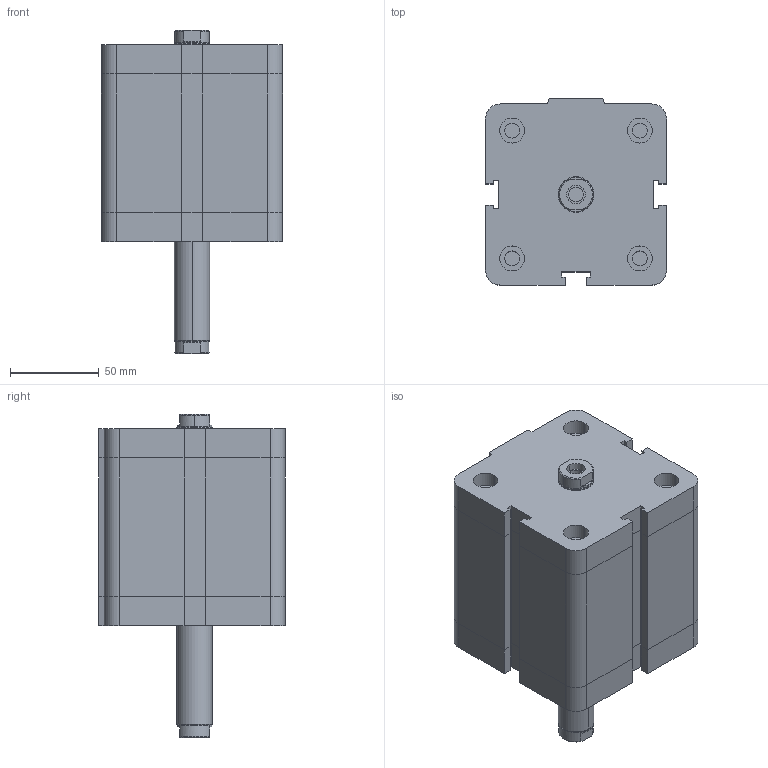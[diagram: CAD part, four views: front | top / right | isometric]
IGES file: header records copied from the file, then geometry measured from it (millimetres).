
Global section: file name: No Iges File Name specified; native system: Autodesk Inventor 2009; preprocessor: AutoDesk Inventor Iges Exporter R2009; author: maffial1; date: 20090420.200435; units: millimetre
Bounding box: 102 x 105 x 182 mm (x, y, z)
Volume: 1126073 mm3; surface area: 98022.8 mm2
Topology: 2 solids, 2 shells, 202 faces, 450 edges, 274 vertices
Faces by surface type: plane 114, bspline 42, revolution 20, cylinder 18, cone 8
